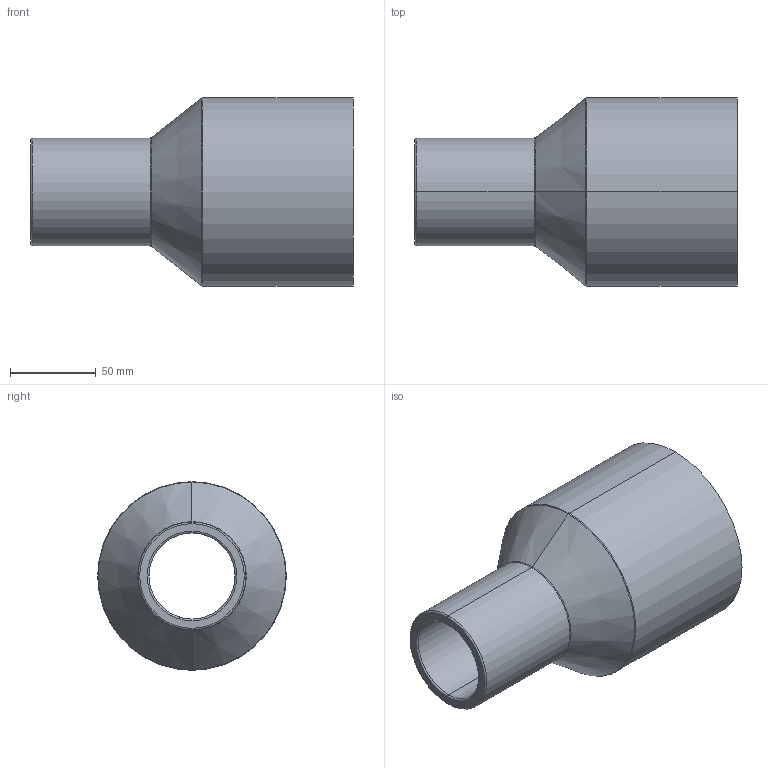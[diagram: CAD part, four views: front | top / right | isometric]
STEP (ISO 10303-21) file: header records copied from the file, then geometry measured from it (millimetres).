
FILE_DESCRIPTION (( 'STEP AP203' ), '1' );
FILE_NAME ('K_ 9-110-63.step', '2011-08-08T11:41:18', ( '' ), ( '' ), 'SwSTEP 2.0', 'SolidWorks 2011', '' );
FILE_SCHEMA (( 'CONFIG_CONTROL_DESIGN' ));
Length unit declared in the file: millimetre
Products named in the file (1): K_ 9-110-63
Bounding box: 188 x 110 x 110 mm (x, y, z)
Volume: 451326.1 mm3; surface area: 101982.3 mm2
Topology: 1 solids, 1 shells, 22 faces, 44 edges, 24 vertices
Faces by surface type: torus 8, cylinder 8, cone 4, plane 2
Entity records: 773 total; most frequent: CARTESIAN_POINT 223, DIRECTION 114, ORIENTED_EDGE 88, AXIS2_PLACEMENT_3D 51, EDGE_CURVE 44, CIRCLE 28, EDGE_LOOP 24, VERTEX_POINT 24
